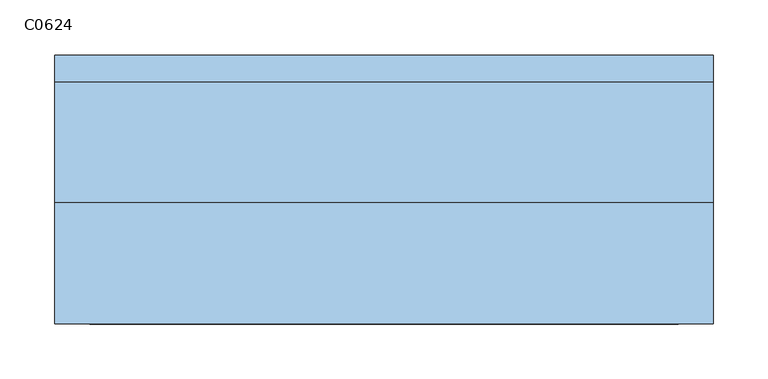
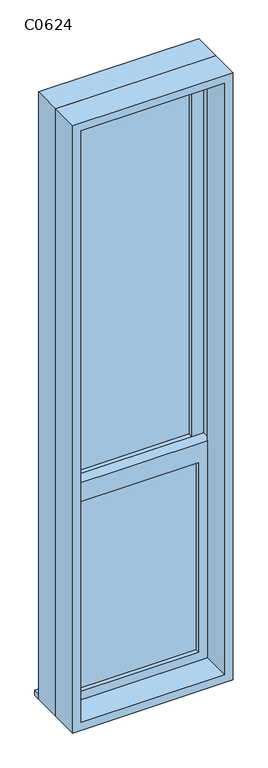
"""IFC4 building model written with IfcOpenShell, lengths in millimetres: window geometry, 上下拉窗1 : C0624."""

from ifc_helpers import new_model, si_unit, frame, origin, place, context, project, spatial, polyline, outline, extrude, source, transform, mapped, element, save


def c0624_07807a0b(model_context):
    return source(origin(), model_context, "Body", "SweptSolid", [
        extrude(outline(polyline([(-235.0, 72.2615397), (235.0, 72.2615397), (235.0, 62.2615397), (-235.0, 62.2615397), (-235.0, 72.2615397)])), frame((0.0, 0.0, 1190.0), z_axis=(0.0, 0.0, 1.0), x_axis=(1.0, 0.0, 0.0)), (0.0, 0.0, 1.0), 1445.0),
        extrude(outline(polyline([(-235.0, 27.2615397), (235.0, 27.2615397), (235.0, 17.2615397), (-235.0, 17.2615397), (-235.0, 27.2615397)])), frame((0.0, 0.0, 365.0), z_axis=(0.0, 0.0, 1.0), x_axis=(1.0, 0.0, 0.0)), (0.0, 0.0, 1.0), 749.4323551),
        extrude(outline(polyline([(1190.0, -280.0), (320.0, -280.0), (320.0, 280.0), (1190.0, 280.0), (1190.0, -280.0)]), holes=[polyline([(1114.4323551, -235.0), (1114.4323551, 235.0), (365.0, 235.0), (365.0, -235.0), (1114.4323551, -235.0)])]), frame((0.0, -0.2384603, 0.0), z_axis=(0.0, 1.0, 0.0), x_axis=(0.0, 0.0, 1.0)), (0.0, 0.0, 1.0), 45.0),
        extrude(outline(polyline([(2680.0, -280.0), (1132.5, -280.0), (1132.5, 280.0), (2680.0, 280.0), (2680.0, -280.0)]), holes=[polyline([(2635.0, -235.0), (2635.0, 235.0), (1190.0, 235.0), (1190.0, -235.0), (2635.0, -235.0)])]), frame((0.0, 44.7615397, 0.0), z_axis=(0.0, 1.0, 0.0), x_axis=(0.0, 0.0, 1.0)), (0.0, 0.0, 1.0), 45.0),
        extrude(outline(polyline([(2700.0, -300.0), (300.0, -300.0), (300.0, 300.0), (2700.0, 300.0), (2700.0, -300.0)]), holes=[polyline([(2668.0, -268.0), (2668.0, 268.0), (332.0, 268.0), (332.0, -268.0), (2668.0, -268.0)])]), frame((0.0, -110.2384603, 0.0), z_axis=(0.0, 1.0, 0.0), x_axis=(0.0, 0.0, 1.0)), (0.0, 0.0, 1.0), 110.0),
        extrude(outline(polyline([(2700.0, 300.0), (2700.0, -300.0), (300.0, -300.0), (300.0, 300.0), (2700.0, 300.0)]), holes=[polyline([(2680.0, 280.0), (320.0, 280.0), (320.0, -280.0), (2680.0, -280.0), (2680.0, 280.0)])]), frame((0.0, -0.2384603, 0.0), z_axis=(0.0, 1.0, 0.0), x_axis=(0.0, 0.0, 1.0)), (0.0, 0.0, 1.0), 110.0),
        extrude(outline(polyline([(-300.0, 134.7615397), (300.0, 134.7615397), (300.0, 109.7615397), (-300.0, 109.7615397), (-300.0, 134.7615397)])), frame((0.0, 0.0, 300.0), z_axis=(0.0, 0.0, 1.0), x_axis=(1.0, 0.0, 0.0)), (0.0, 0.0, 1.0), 20.0),
    ])


if __name__ == "__main__":
    model = new_model("IFC4")
    model_context = context("Model", 3, world=origin())
    ifc_project = project(units=[si_unit("LENGTHUNIT", "METRE", prefix="MILLI")], contexts=[model_context])
    site = spatial("IfcSite", under=ifc_project)
    building = spatial("IfcBuilding", under=site)
    placement = place(None, origin())
    c0624_shape = c0624_07807a0b(model_context)
    element("IfcWindow", 1, ObjectType="上下拉窗1 : C0624", at=placement, inside=building, context=model_context, shape_type="MappedRepresentation", body=[
        mapped(c0624_shape, transform((0.0, 0.0, 0.0), x_axis=(1.0, 0.0, 0.0), y_axis=(0.0, 1.0, 0.0), z_axis=(0.0, 0.0, 1.0))),
    ])
    save(model, "model.ifc")
